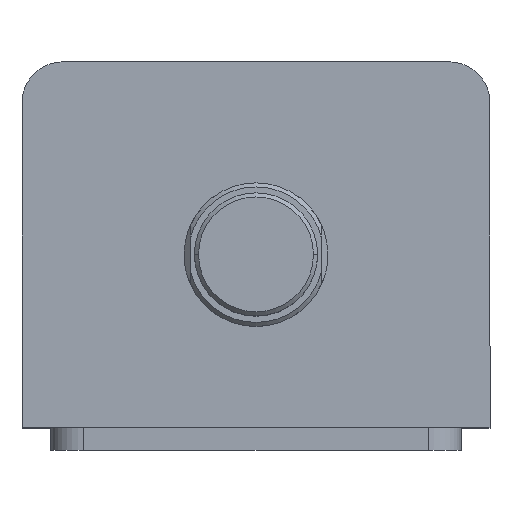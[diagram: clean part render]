
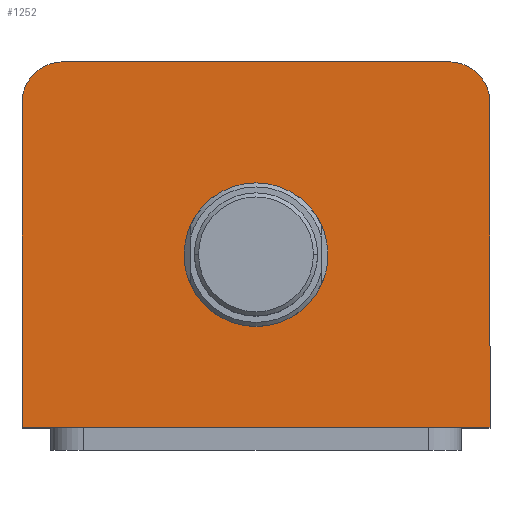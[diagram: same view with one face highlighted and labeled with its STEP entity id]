
A CAD part, top view. The second image highlights one B-rep face of the part: STEP entity #1252.
In plain terms, the highlighted planar face has unit normal (0, 0, 1).
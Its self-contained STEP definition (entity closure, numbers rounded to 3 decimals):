
#89 = CARTESIAN_POINT ( 'NONE',  ( -57., 34.5, 117. ) ) ;
#99 = CARTESIAN_POINT ( 'NONE',  ( -47., 44.5, 117. ) ) ;
#105 = CARTESIAN_POINT ( 'NONE',  ( 47., 44.5, 117. ) ) ;
#134 = CARTESIAN_POINT ( 'NONE',  ( -57., -44.5, 117. ) ) ;
#142 = CARTESIAN_POINT ( 'NONE',  ( -17.5, -2.5, 117. ) ) ;
#159 = PLANE ( 'NONE',  #3142 ) ;
#161 = CARTESIAN_POINT ( 'NONE',  ( 0., 0., 117. ) ) ;
#162 = DIRECTION ( 'NONE',  ( 0., 0., 1. ) ) ;
#163 = DIRECTION ( 'NONE',  ( 1., 0., 0. ) ) ;
#291 = VERTEX_POINT ( 'NONE', #2909 ) ;
#292 = VERTEX_POINT ( 'NONE', #2910 ) ;
#403 = VERTEX_POINT ( 'NONE', #579 ) ;
#579 = CARTESIAN_POINT ( 'NONE',  ( 57., 34.5, 117. ) ) ;
#848 = FACE_OUTER_BOUND ( 'NONE', #1386, .T. ) ;
#850 = FACE_BOUND ( 'NONE', #1389, .T. ) ;
#1252 = ADVANCED_FACE ( 'NONE', ( #850, #848 ), #159, .T. ) ;
#1386 = EDGE_LOOP ( 'NONE', ( #1967, #1968, #1969, #1970, #1971, #1972 ) ) ;
#1389 = EDGE_LOOP ( 'NONE', ( #1965, #1966 ) ) ;
#1545 = CIRCLE ( 'NONE', #3730, 17.5 ) ;
#1592 = CIRCLE ( 'NONE', #3734, 17.5 ) ;
#1848 = VERTEX_POINT ( 'NONE', #89 ) ;
#1863 = VERTEX_POINT ( 'NONE', #99 ) ;
#1869 = VERTEX_POINT ( 'NONE', #105 ) ;
#1965 = ORIENTED_EDGE ( 'NONE', *, *, #3229, .F. ) ;
#1966 = ORIENTED_EDGE ( 'NONE', *, *, #3198, .F. ) ;
#1967 = ORIENTED_EDGE ( 'NONE', *, *, #3270, .T. ) ;
#1968 = ORIENTED_EDGE ( 'NONE', *, *, #3307, .T. ) ;
#1969 = ORIENTED_EDGE ( 'NONE', *, *, #3311, .T. ) ;
#1970 = ORIENTED_EDGE ( 'NONE', *, *, #3255, .T. ) ;
#1971 = ORIENTED_EDGE ( 'NONE', *, *, #3290, .T. ) ;
#1972 = ORIENTED_EDGE ( 'NONE', *, *, #3298, .T. ) ;
#2018 = VERTEX_POINT ( 'NONE', #134 ) ;
#2026 = VERTEX_POINT ( 'NONE', #142 ) ;
#2559 = CARTESIAN_POINT ( 'NONE',  ( 57., 44.5, 117. ) ) ;
#2560 = DIRECTION ( 'NONE',  ( 0., 1., 0. ) ) ;
#2582 = CARTESIAN_POINT ( 'NONE',  ( 47., 34.5, 117. ) ) ;
#2583 = DIRECTION ( 'NONE',  ( 0., 0., 1. ) ) ;
#2584 = DIRECTION ( 'NONE',  ( 1., 0., 0. ) ) ;
#2609 = CARTESIAN_POINT ( 'NONE',  ( -47., 34.5, 117. ) ) ;
#2610 = DIRECTION ( 'NONE',  ( 0., 0., 1. ) ) ;
#2611 = DIRECTION ( 'NONE',  ( 1., 0., 0. ) ) ;
#2624 = CARTESIAN_POINT ( 'NONE',  ( -57., 44.5, 117. ) ) ;
#2626 = DIRECTION ( 'NONE',  ( 0., -1., 0. ) ) ;
#2652 = LINE ( 'NONE', #2855, #2664 ) ;
#2664 = VECTOR ( 'NONE', #2849, 1000. ) ;
#2695 = LINE ( 'NONE', #2892, #2698 ) ;
#2698 = VECTOR ( 'NONE', #2893, 1000. ) ;
#2734 = LINE ( 'NONE', #2559, #2737 ) ;
#2737 = VECTOR ( 'NONE', #2560, 1000. ) ;
#2741 = CIRCLE ( 'NONE', #3795, 10. ) ;
#2754 = CIRCLE ( 'NONE', #3790, 10. ) ;
#2760 = LINE ( 'NONE', #2624, #2763 ) ;
#2763 = VECTOR ( 'NONE', #2626, 1000. ) ;
#2799 = DIRECTION ( 'NONE',  ( 0., 0., 1. ) ) ;
#2800 = DIRECTION ( 'NONE',  ( 1., 0., 0. ) ) ;
#2849 = DIRECTION ( 'NONE',  ( 1., 0., 0. ) ) ;
#2855 = CARTESIAN_POINT ( 'NONE',  ( -57., -44.5, 117. ) ) ;
#2892 = CARTESIAN_POINT ( 'NONE',  ( -57., 44.5, 117. ) ) ;
#2893 = DIRECTION ( 'NONE',  ( -1., 0., 0. ) ) ;
#2909 = CARTESIAN_POINT ( 'NONE',  ( 57., -44.5, 117. ) ) ;
#2910 = CARTESIAN_POINT ( 'NONE',  ( 17.5, -2.5, 117. ) ) ;
#3023 = CARTESIAN_POINT ( 'NONE',  ( 0., -2.5, 117. ) ) ;
#3024 = DIRECTION ( 'NONE',  ( 0., 0., 1. ) ) ;
#3025 = DIRECTION ( 'NONE',  ( 1., 0., 0. ) ) ;
#3104 = CARTESIAN_POINT ( 'NONE',  ( 0., -2.5, 117. ) ) ;
#3142 = AXIS2_PLACEMENT_3D ( 'NONE', #161, #162, #163 ) ;
#3198 = EDGE_CURVE ( 'NONE', #2026, #292, #1545, .T. ) ;
#3229 = EDGE_CURVE ( 'NONE', #292, #2026, #1592, .T. ) ;
#3255 = EDGE_CURVE ( 'NONE', #2018, #291, #2652, .T. ) ;
#3270 = EDGE_CURVE ( 'NONE', #1869, #1863, #2695, .T. ) ;
#3290 = EDGE_CURVE ( 'NONE', #291, #403, #2734, .T. ) ;
#3298 = EDGE_CURVE ( 'NONE', #403, #1869, #2741, .T. ) ;
#3307 = EDGE_CURVE ( 'NONE', #1863, #1848, #2754, .T. ) ;
#3311 = EDGE_CURVE ( 'NONE', #1848, #2018, #2760, .T. ) ;
#3730 = AXIS2_PLACEMENT_3D ( 'NONE', #3023, #3024, #3025 ) ;
#3734 = AXIS2_PLACEMENT_3D ( 'NONE', #3104, #2799, #2800 ) ;
#3790 = AXIS2_PLACEMENT_3D ( 'NONE', #2609, #2610, #2611 ) ;
#3795 = AXIS2_PLACEMENT_3D ( 'NONE', #2582, #2583, #2584 ) ;
